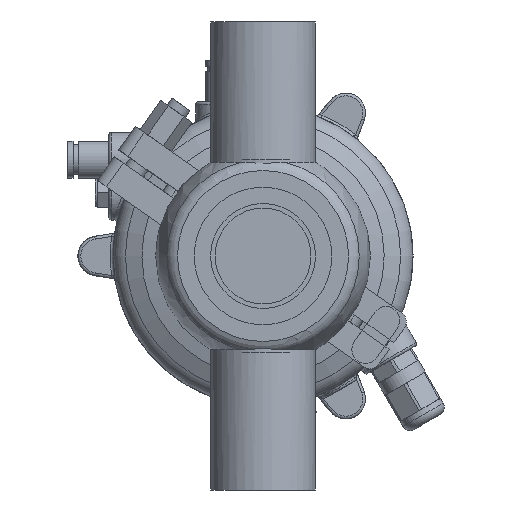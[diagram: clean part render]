
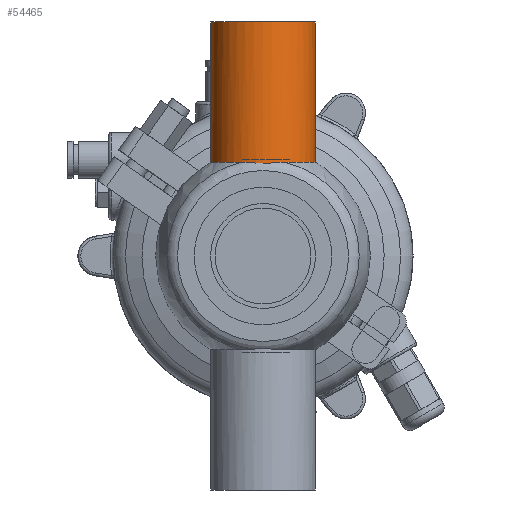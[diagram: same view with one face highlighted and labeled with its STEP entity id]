
A CAD part, front view. The second image highlights one B-rep face of the part: STEP entity #54465.
In plain terms, the highlighted cylindrical face has radius 19.05 mm (diameter 38.1 mm), a full revolution.
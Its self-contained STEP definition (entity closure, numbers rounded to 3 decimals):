
#2259 = DIRECTION ( 'NONE',  ( 1., 0., 0. ) ) ;
#2719 = AXIS2_PLACEMENT_3D ( 'NONE', #28038, #45941, #51398 ) ;
#3623 = CARTESIAN_POINT ( 'NONE',  ( 33.937, -18.342, 5.317 ) ) ;
#3937 = CARTESIAN_POINT ( 'NONE',  ( 33.675, -19.05, 0.667 ) ) ;
#4836 = EDGE_CURVE ( 'NONE', #54925, #54925, #39540, .T. ) ;
#5011 = FACE_OUTER_BOUND ( 'NONE', #30282, .T. ) ;
#5784 = AXIS2_PLACEMENT_3D ( 'NONE', #7102, #2259, #25552 ) ;
#7102 = CARTESIAN_POINT ( 'NONE',  ( 34.031, 0., 0. ) ) ;
#8223 = CARTESIAN_POINT ( 'NONE',  ( 85., 0., 19.05 ) ) ;
#9390 = CARTESIAN_POINT ( 'NONE',  ( 33.799, -18.769, -3.33 ) ) ;
#9572 = CYLINDRICAL_SURFACE ( 'NONE', #2719, 19.05 ) ;
#12716 = CARTESIAN_POINT ( 'NONE',  ( 33.675, -19.05, -0.671 ) ) ;
#13900 = CARTESIAN_POINT ( 'NONE',  ( 34.031, -17.366, 7.83 ) ) ;
#14666 = B_SPLINE_CURVE_WITH_KNOTS ( 'NONE', 3,
 ( #13900, #54868, #3623, #36070, #32431, #27854, #3937, #12716, #50937, #22969, #9390, #40677, #36368, #18124 ),
 .UNSPECIFIED., .F., .F.,
 ( 4, 2, 2, 2, 2, 2, 4 ),
 ( 0., 0.004, 0.006, 0.008, 0.01, 0.012, 0.016 ),
 .UNSPECIFIED. ) ;
#14744 = VERTEX_POINT ( 'NONE', #32990 ) ;
#15306 = CARTESIAN_POINT ( 'NONE',  ( 34.031, -17.366, 7.83 ) ) ;
#18124 = CARTESIAN_POINT ( 'NONE',  ( 34.031, -17.366, -7.83 ) ) ;
#22969 = CARTESIAN_POINT ( 'NONE',  ( 33.755, -18.874, -2.667 ) ) ;
#25552 = DIRECTION ( 'NONE',  ( 0., 0., 1. ) ) ;
#27854 = CARTESIAN_POINT ( 'NONE',  ( 33.693, -19.015, 1.339 ) ) ;
#28038 = CARTESIAN_POINT ( 'NONE',  ( 0., 0., 0. ) ) ;
#30062 = EDGE_LOOP ( 'NONE', ( #53869, #48554 ) ) ;
#30282 = EDGE_LOOP ( 'NONE', ( #51759 ) ) ;
#32431 = CARTESIAN_POINT ( 'NONE',  ( 33.756, -18.872, 2.686 ) ) ;
#32990 = CARTESIAN_POINT ( 'NONE',  ( 34.031, -17.366, -7.83 ) ) ;
#35234 = DIRECTION ( 'NONE',  ( 0., 0., 1. ) ) ;
#36070 = CARTESIAN_POINT ( 'NONE',  ( 33.8, -18.765, 3.352 ) ) ;
#36368 = CARTESIAN_POINT ( 'NONE',  ( 34.031, -17.924, -6.593 ) ) ;
#39540 = CIRCLE ( 'NONE', #44357, 19.05 ) ;
#40677 = CARTESIAN_POINT ( 'NONE',  ( 33.936, -18.344, -5.312 ) ) ;
#44357 = AXIS2_PLACEMENT_3D ( 'NONE', #57110, #58281, #35234 ) ;
#45336 = FACE_OUTER_BOUND ( 'NONE', #30062, .T. ) ;
#45941 = DIRECTION ( 'NONE',  ( -1., 0., 0. ) ) ;
#48554 = ORIENTED_EDGE ( 'NONE', *, *, #48853, .T. ) ;
#48853 = EDGE_CURVE ( 'NONE', #50116, #14744, #14666, .T. ) ;
#50116 = VERTEX_POINT ( 'NONE', #15306 ) ;
#50937 = CARTESIAN_POINT ( 'NONE',  ( 33.693, -19.015, -1.338 ) ) ;
#51273 = CIRCLE ( 'NONE', #5784, 19.05 ) ;
#51398 = DIRECTION ( 'NONE',  ( 0., 0., 1. ) ) ;
#51759 = ORIENTED_EDGE ( 'NONE', *, *, #4836, .T. ) ;
#53869 = ORIENTED_EDGE ( 'NONE', *, *, #57074, .T. ) ;
#54465 = ADVANCED_FACE ( 'NONE', ( #45336, #5011 ), #9572, .T. ) ;
#54868 = CARTESIAN_POINT ( 'NONE',  ( 34.031, -17.925, 6.591 ) ) ;
#54925 = VERTEX_POINT ( 'NONE', #8223 ) ;
#57074 = EDGE_CURVE ( 'NONE', #14744, #50116, #51273, .T. ) ;
#57110 = CARTESIAN_POINT ( 'NONE',  ( 85., 0., 0. ) ) ;
#58281 = DIRECTION ( 'NONE',  ( -1., 0., 0. ) ) ;
